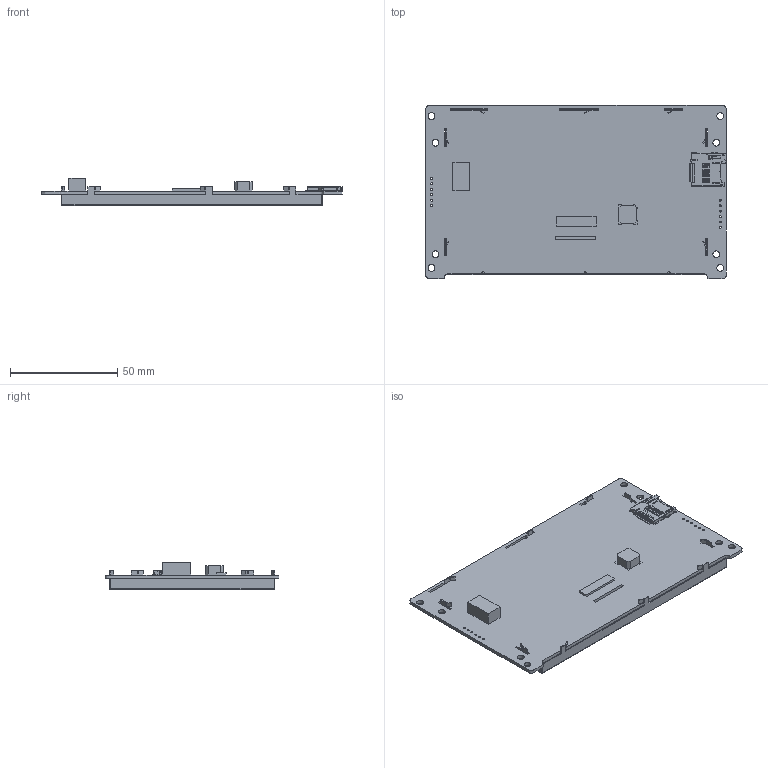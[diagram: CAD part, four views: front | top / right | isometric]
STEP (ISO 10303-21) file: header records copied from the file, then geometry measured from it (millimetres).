
FILE_DESCRIPTION(/* description */ (''),/* implementation_level */ '2;1');
FILE_NAME(/* name */ '',/* time_stamp */ '2023-08-11T13:55:37+08:00',/* author */ (''),/* organization */ (''),/* preprocessor_version */ 'ST-DEVELOPER v11',/* originating_system */ 'SIEMENS PLM Software NX 7.5',/* authorisation */ '');
FILE_SCHEMA (('AP203_CONFIGURATION_CONTROLLED_3D_DESIGN_OF_MECHANICAL_PARTS_AND_ASSEMBLIES_MIM_LF'));
Length unit declared in the file: millimetre
Products named in the file (1): SDWn050T33N
Bounding box: 140 x 80.9 x 12.9 mm (x, y, z)
Volume: 26741.2 mm3; surface area: 48153.1 mm2
Topology: 11 solids, 11 shells, 1137 faces, 3253 edges, 2114 vertices
Faces by surface type: plane 849, cylinder 286, cone 1, extrusion 1
Full cylindrical faces by diameter (mm): 0.889 x12, 3.2 x8
Entity records: 37435 total; most frequent: CARTESIAN_POINT 6832, ORIENTED_EDGE 6464, DIRECTION 6015, EDGE_CURVE 3232, VECTOR 2585, LINE 2584, VERTEX_POINT 2114, AXIS2_PLACEMENT_3D 1715
